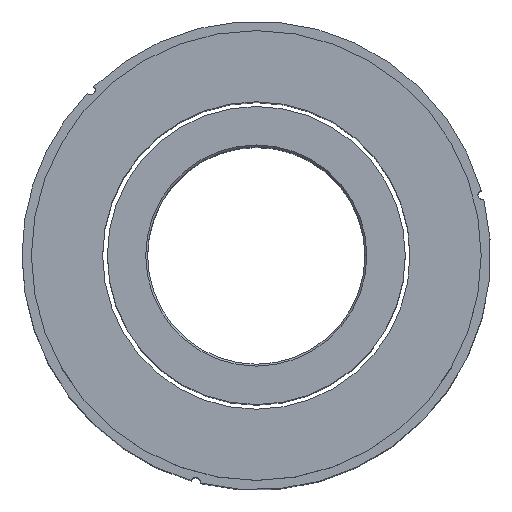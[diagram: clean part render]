
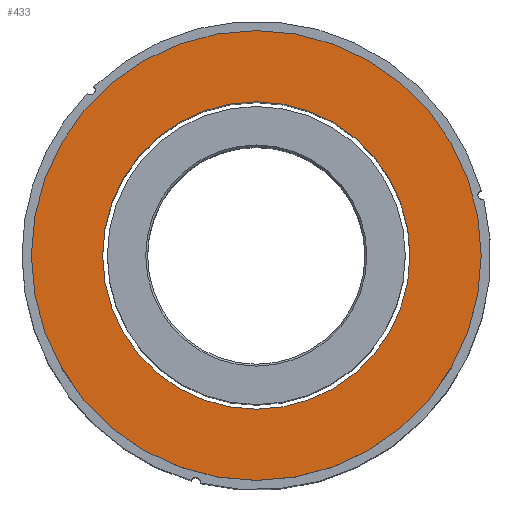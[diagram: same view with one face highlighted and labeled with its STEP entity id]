
A CAD part, top view. The second image highlights one B-rep face of the part: STEP entity #433.
In plain terms, the highlighted planar face has unit normal (0, 0, 1).
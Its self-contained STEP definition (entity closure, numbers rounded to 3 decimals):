
#36 = DIRECTION ( 'NONE',  ( 0., 0., -1. ) ) ;
#74 = EDGE_CURVE ( 'NONE', #960, #543, #401, .T. ) ;
#207 = DIRECTION ( 'NONE',  ( -1., 0., 0. ) ) ;
#248 = EDGE_CURVE ( 'NONE', #552, #814, #1355, .T. ) ;
#274 = AXIS2_PLACEMENT_3D ( 'NONE', #1498, #459, #855 ) ;
#336 = DIRECTION ( 'NONE',  ( 1., 0., 0. ) ) ;
#371 = CARTESIAN_POINT ( 'NONE',  ( -8.2, 0., 0. ) ) ;
#396 = FACE_OUTER_BOUND ( 'NONE', #1061, .T. ) ;
#401 = CIRCLE ( 'NONE', #618, 8.2 ) ;
#433 = ADVANCED_FACE ( 'NONE', ( #527, #396 ), #1039, .T. ) ;
#453 = AXIS2_PLACEMENT_3D ( 'NONE', #1512, #511, #1020 ) ;
#459 = DIRECTION ( 'NONE',  ( 0., 0., -1. ) ) ;
#466 = ORIENTED_EDGE ( 'NONE', *, *, #653, .T. ) ;
#511 = DIRECTION ( 'NONE',  ( 0., 0., -1. ) ) ;
#517 = CIRCLE ( 'NONE', #453, 8.2 ) ;
#527 = FACE_BOUND ( 'NONE', #1253, .T. ) ;
#543 = VERTEX_POINT ( 'NONE', #371 ) ;
#552 = VERTEX_POINT ( 'NONE', #1410 ) ;
#553 = ORIENTED_EDGE ( 'NONE', *, *, #74, .T. ) ;
#589 = CARTESIAN_POINT ( 'NONE',  ( 0., 0., 0. ) ) ;
#618 = AXIS2_PLACEMENT_3D ( 'NONE', #589, #1096, #207 ) ;
#653 = EDGE_CURVE ( 'NONE', #543, #960, #517, .T. ) ;
#707 = EDGE_CURVE ( 'NONE', #814, #552, #1101, .T. ) ;
#764 = AXIS2_PLACEMENT_3D ( 'NONE', #1428, #36, #815 ) ;
#814 = VERTEX_POINT ( 'NONE', #1164 ) ;
#815 = DIRECTION ( 'NONE',  ( -1., 0., 0. ) ) ;
#855 = DIRECTION ( 'NONE',  ( -1., 0., 0. ) ) ;
#960 = VERTEX_POINT ( 'NONE', #1559 ) ;
#1020 = DIRECTION ( 'NONE',  ( -1., 0., 0. ) ) ;
#1039 = PLANE ( 'NONE',  #1539 ) ;
#1061 = EDGE_LOOP ( 'NONE', ( #1585, #1189 ) ) ;
#1096 = DIRECTION ( 'NONE',  ( 0., 0., -1. ) ) ;
#1101 = CIRCLE ( 'NONE', #274, 12. ) ;
#1164 = CARTESIAN_POINT ( 'NONE',  ( 12., 0., 0. ) ) ;
#1189 = ORIENTED_EDGE ( 'NONE', *, *, #707, .F. ) ;
#1233 = DIRECTION ( 'NONE',  ( 0., 0., 1. ) ) ;
#1253 = EDGE_LOOP ( 'NONE', ( #466, #553 ) ) ;
#1334 = CARTESIAN_POINT ( 'NONE',  ( 0., 12., 0. ) ) ;
#1355 = CIRCLE ( 'NONE', #764, 12. ) ;
#1410 = CARTESIAN_POINT ( 'NONE',  ( -12., 0., 0. ) ) ;
#1428 = CARTESIAN_POINT ( 'NONE',  ( 0., 0., 0. ) ) ;
#1498 = CARTESIAN_POINT ( 'NONE',  ( 0., 0., 0. ) ) ;
#1512 = CARTESIAN_POINT ( 'NONE',  ( 0., 0., 0. ) ) ;
#1539 = AXIS2_PLACEMENT_3D ( 'NONE', #1334, #1233, #336 ) ;
#1559 = CARTESIAN_POINT ( 'NONE',  ( 8.2, 0., 0. ) ) ;
#1585 = ORIENTED_EDGE ( 'NONE', *, *, #248, .F. ) ;
